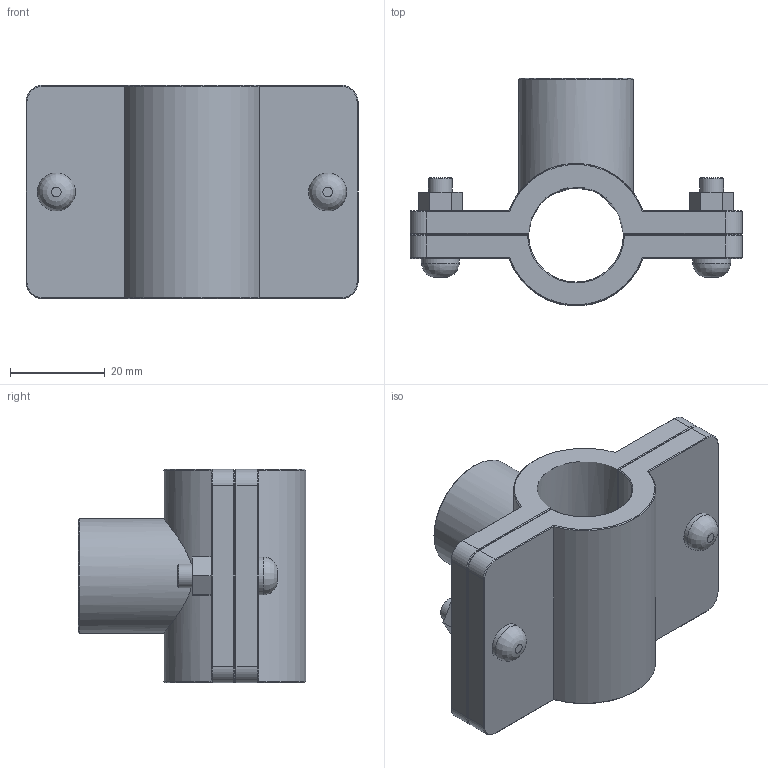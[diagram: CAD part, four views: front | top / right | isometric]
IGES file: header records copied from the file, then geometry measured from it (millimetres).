
Global section: file name: 160760020005_160860020005.ipt; native system: Autodesk Inventor 2015; preprocessor: unknown; author: KIM; date: 20170618.093434; units: millimetre
Bounding box: 70 x 47.95 x 45 mm (x, y, z)
Volume: 40055 mm3; surface area: 19484.3 mm2
Topology: 1 solids, 1 shells, 113 faces, 262 edges, 161 vertices
Faces by surface type: plane 64, cone 23, cylinder 17, revolution 9
Full cylindrical faces by diameter (mm): 5 x2, 8 x4, 24.22 x1
